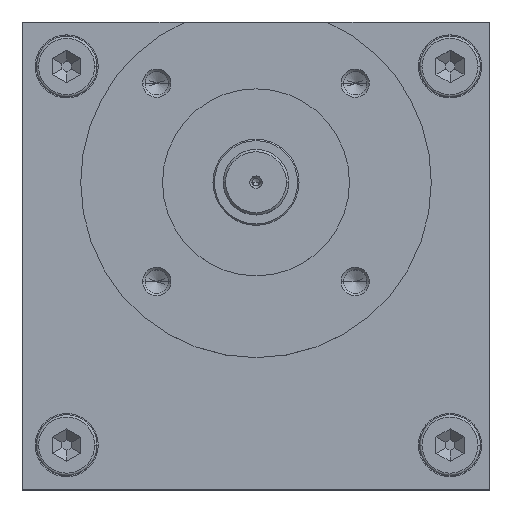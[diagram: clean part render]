
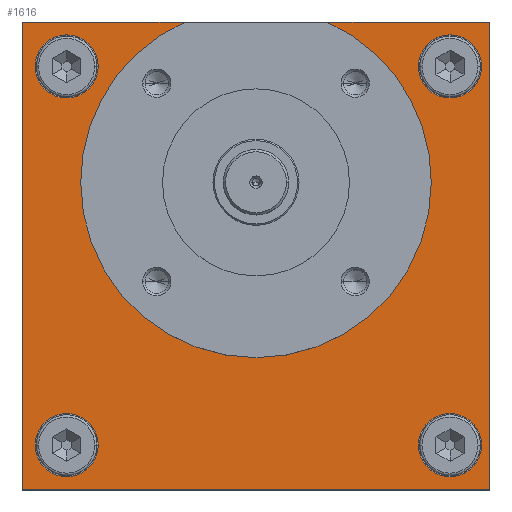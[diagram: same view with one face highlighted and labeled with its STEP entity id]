
A CAD part, top view. The second image highlights one B-rep face of the part: STEP entity #1616.
In plain terms, the highlighted planar face has unit normal (0, 0, 1).
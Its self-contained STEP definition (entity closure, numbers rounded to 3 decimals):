
#350 = ORIENTED_EDGE ( 'NONE', *, *, #1575, .F. ) ;
#359 = ORIENTED_EDGE ( 'NONE', *, *, #417, .T. ) ;
#409 = EDGE_CURVE ( 'NONE', #1635, #416, #2446, .T. ) ;
#415 = ORIENTED_EDGE ( 'NONE', *, *, #1550, .F. ) ;
#416 = VERTEX_POINT ( 'NONE', #2481 ) ;
#417 = EDGE_CURVE ( 'NONE', #416, #1523, #2480, .T. ) ;
#1285 = ORIENTED_EDGE ( 'NONE', *, *, #1660, .T. ) ;
#1397 = VERTEX_POINT ( 'NONE', #4576 ) ;
#1404 = VERTEX_POINT ( 'NONE', #4554 ) ;
#1406 = EDGE_CURVE ( 'NONE', #1397, #1404, #4610, .T. ) ;
#1416 = VERTEX_POINT ( 'NONE', #4619 ) ;
#1441 = EDGE_CURVE ( 'NONE', #1416, #1446, #4700, .T. ) ;
#1446 = VERTEX_POINT ( 'NONE', #4721 ) ;
#1494 = VERTEX_POINT ( 'NONE', #4833 ) ;
#1495 = EDGE_CURVE ( 'NONE', #1494, #1502, #4838, .T. ) ;
#1502 = VERTEX_POINT ( 'NONE', #4877 ) ;
#1514 = VERTEX_POINT ( 'NONE', #4857 ) ;
#1515 = VERTEX_POINT ( 'NONE', #4856 ) ;
#1517 = EDGE_CURVE ( 'NONE', #1514, #1515, #4879, .T. ) ;
#1523 = VERTEX_POINT ( 'NONE', #4909 ) ;
#1524 = VERTEX_POINT ( 'NONE', #4898 ) ;
#1550 = EDGE_CURVE ( 'NONE', #1524, #1523, #4970, .T. ) ;
#1575 = EDGE_CURVE ( 'NONE', #1582, #1524, #5004, .T. ) ;
#1582 = VERTEX_POINT ( 'NONE', #4976 ) ;
#1598 = EDGE_LOOP ( 'NONE', ( #1599, #1665, #1673, #1285, #1662, #359, #415, #350 ) ) ;
#1599 = ORIENTED_EDGE ( 'NONE', *, *, #1667, .F. ) ;
#1600 = ORIENTED_EDGE ( 'NONE', *, *, #1517, .F. ) ;
#1611 = EDGE_LOOP ( 'NONE', ( #1617, #1671 ) ) ;
#1616 = ADVANCED_FACE ( 'NONE', ( #5052, #5056, #5055, #5054, #5048 ), #5011, .F. ) ;
#1617 = ORIENTED_EDGE ( 'NONE', *, *, #1661, .F. ) ;
#1624 = EDGE_CURVE ( 'NONE', #1446, #1416, #5101, .T. ) ;
#1626 = EDGE_LOOP ( 'NONE', ( #1630, #1628 ) ) ;
#1628 = ORIENTED_EDGE ( 'NONE', *, *, #1441, .F. ) ;
#1630 = ORIENTED_EDGE ( 'NONE', *, *, #1624, .F. ) ;
#1635 = VERTEX_POINT ( 'NONE', #5098 ) ;
#1660 = EDGE_CURVE ( 'NONE', #1663, #1635, #5157, .T. ) ;
#1661 = EDGE_CURVE ( 'NONE', #1502, #1494, #5155, .T. ) ;
#1662 = ORIENTED_EDGE ( 'NONE', *, *, #409, .T. ) ;
#1663 = VERTEX_POINT ( 'NONE', #5147 ) ;
#1664 = VERTEX_POINT ( 'NONE', #5194 ) ;
#1665 = ORIENTED_EDGE ( 'NONE', *, *, #1669, .T. ) ;
#1666 = EDGE_LOOP ( 'NONE', ( #1676, #1678 ) ) ;
#1667 = EDGE_CURVE ( 'NONE', #1675, #1582, #5193, .T. ) ;
#1668 = EDGE_CURVE ( 'NONE', #1664, #1663, #5145, .T. ) ;
#1669 = EDGE_CURVE ( 'NONE', #1675, #1664, #5179, .T. ) ;
#1670 = ORIENTED_EDGE ( 'NONE', *, *, #1674, .F. ) ;
#1671 = ORIENTED_EDGE ( 'NONE', *, *, #1495, .F. ) ;
#1672 = EDGE_LOOP ( 'NONE', ( #1670, #1600 ) ) ;
#1673 = ORIENTED_EDGE ( 'NONE', *, *, #1668, .T. ) ;
#1674 = EDGE_CURVE ( 'NONE', #1515, #1514, #5180, .T. ) ;
#1675 = VERTEX_POINT ( 'NONE', #5184 ) ;
#1676 = ORIENTED_EDGE ( 'NONE', *, *, #1677, .F. ) ;
#1677 = EDGE_CURVE ( 'NONE', #1404, #1397, #5169, .T. ) ;
#1678 = ORIENTED_EDGE ( 'NONE', *, *, #1406, .F. ) ;
#2443 = DIRECTION ( 'NONE',  ( 0., 1., 0. ) ) ;
#2444 = VECTOR ( 'NONE', #2443, 1000. ) ;
#2445 = CARTESIAN_POINT ( 'NONE',  ( 50., -50., 0. ) ) ;
#2446 = LINE ( 'NONE', #2445, #2444 ) ;
#2473 = DIRECTION ( 'NONE',  ( -1., 0., 0. ) ) ;
#2474 = VECTOR ( 'NONE', #2473, 1000. ) ;
#2479 = CARTESIAN_POINT ( 'NONE',  ( -50., 50., 0. ) ) ;
#2480 = LINE ( 'NONE', #2479, #2474 ) ;
#2481 = CARTESIAN_POINT ( 'NONE',  ( 50., 50., 0. ) ) ;
#4554 = CARTESIAN_POINT ( 'NONE',  ( -33.75, -40.5, 0. ) ) ;
#4576 = CARTESIAN_POINT ( 'NONE',  ( -47.25, -40.5, 0. ) ) ;
#4606 = DIRECTION ( 'NONE',  ( 1., 0., 0. ) ) ;
#4607 = DIRECTION ( 'NONE',  ( 0., 0., 1. ) ) ;
#4608 = AXIS2_PLACEMENT_3D ( 'NONE', #4623, #4607, #4606 ) ;
#4610 = CIRCLE ( 'NONE', #4608, 6.75 ) ;
#4619 = CARTESIAN_POINT ( 'NONE',  ( 34.75, 40.5, 0. ) ) ;
#4623 = CARTESIAN_POINT ( 'NONE',  ( -40.5, -40.5, 0. ) ) ;
#4700 = CIRCLE ( 'NONE', #4752, 6.75 ) ;
#4721 = CARTESIAN_POINT ( 'NONE',  ( 48.25, 40.5, 0. ) ) ;
#4749 = DIRECTION ( 'NONE',  ( 1., 0., 0. ) ) ;
#4750 = DIRECTION ( 'NONE',  ( 0., 0., 1. ) ) ;
#4751 = CARTESIAN_POINT ( 'NONE',  ( 41.5, 40.5, 0. ) ) ;
#4752 = AXIS2_PLACEMENT_3D ( 'NONE', #4751, #4750, #4749 ) ;
#4820 = DIRECTION ( 'NONE',  ( 1., 0., 0. ) ) ;
#4821 = DIRECTION ( 'NONE',  ( 0., 0., 1. ) ) ;
#4822 = CARTESIAN_POINT ( 'NONE',  ( -40.5, 40.5, 0. ) ) ;
#4823 = AXIS2_PLACEMENT_3D ( 'NONE', #4822, #4821, #4820 ) ;
#4833 = CARTESIAN_POINT ( 'NONE',  ( -47.25, 40.5, 0. ) ) ;
#4838 = CIRCLE ( 'NONE', #4823, 6.75 ) ;
#4846 = AXIS2_PLACEMENT_3D ( 'NONE', #4865, #4913, #4912 ) ;
#4856 = CARTESIAN_POINT ( 'NONE',  ( 48.25, -40.5, 0. ) ) ;
#4857 = CARTESIAN_POINT ( 'NONE',  ( 34.75, -40.5, 0. ) ) ;
#4865 = CARTESIAN_POINT ( 'NONE',  ( 41.5, -40.5, 0. ) ) ;
#4877 = CARTESIAN_POINT ( 'NONE',  ( -33.75, 40.5, 0. ) ) ;
#4879 = CIRCLE ( 'NONE', #4846, 6.75 ) ;
#4898 = CARTESIAN_POINT ( 'NONE',  ( 37.5, 15.7, 0. ) ) ;
#4909 = CARTESIAN_POINT ( 'NONE',  ( 15.158, 50., 0. ) ) ;
#4912 = DIRECTION ( 'NONE',  ( 1., 0., 0. ) ) ;
#4913 = DIRECTION ( 'NONE',  ( 0., 0., 1. ) ) ;
#4965 = DIRECTION ( 'NONE',  ( 1., 0., 0. ) ) ;
#4966 = DIRECTION ( 'NONE',  ( 0., 0., 1. ) ) ;
#4967 = CARTESIAN_POINT ( 'NONE',  ( 0., 15.7, 0. ) ) ;
#4968 = AXIS2_PLACEMENT_3D ( 'NONE', #4967, #4966, #4965 ) ;
#4970 = CIRCLE ( 'NONE', #4968, 37.5 ) ;
#4976 = CARTESIAN_POINT ( 'NONE',  ( -37.5, 15.7, 0. ) ) ;
#4984 = DIRECTION ( 'NONE',  ( 1., 0., 0. ) ) ;
#4985 = DIRECTION ( 'NONE',  ( 0., 0., 1. ) ) ;
#4986 = CARTESIAN_POINT ( 'NONE',  ( 0., 15.7, 0. ) ) ;
#4987 = AXIS2_PLACEMENT_3D ( 'NONE', #4986, #4985, #4984 ) ;
#5004 = CIRCLE ( 'NONE', #4987, 37.5 ) ;
#5011 = PLANE ( 'NONE',  #5051 ) ;
#5044 = DIRECTION ( 'NONE',  ( -1., 0., 0. ) ) ;
#5045 = DIRECTION ( 'NONE',  ( 0., 0., -1. ) ) ;
#5048 = FACE_OUTER_BOUND ( 'NONE', #1598, .T. ) ;
#5051 = AXIS2_PLACEMENT_3D ( 'NONE', #5060, #5045, #5044 ) ;
#5052 = FACE_BOUND ( 'NONE', #1626, .T. ) ;
#5054 = FACE_BOUND ( 'NONE', #1666, .T. ) ;
#5055 = FACE_BOUND ( 'NONE', #1672, .T. ) ;
#5056 = FACE_BOUND ( 'NONE', #1611, .T. ) ;
#5060 = CARTESIAN_POINT ( 'NONE',  ( 50., 50., 0. ) ) ;
#5085 = DIRECTION ( 'NONE',  ( 1., 0., 0. ) ) ;
#5086 = DIRECTION ( 'NONE',  ( 0., 0., 1. ) ) ;
#5087 = CARTESIAN_POINT ( 'NONE',  ( 41.5, 40.5, 0. ) ) ;
#5098 = CARTESIAN_POINT ( 'NONE',  ( 50., -50., 0. ) ) ;
#5101 = CIRCLE ( 'NONE', #5102, 6.75 ) ;
#5102 = AXIS2_PLACEMENT_3D ( 'NONE', #5087, #5086, #5085 ) ;
#5137 = DIRECTION ( 'NONE',  ( 1., 0., 0. ) ) ;
#5138 = VECTOR ( 'NONE', #5137, 1000. ) ;
#5139 = CARTESIAN_POINT ( 'NONE',  ( -40.5, 40.5, 0. ) ) ;
#5140 = CARTESIAN_POINT ( 'NONE',  ( -50., -50., 0. ) ) ;
#5144 = CARTESIAN_POINT ( 'NONE',  ( -50., -50., 0. ) ) ;
#5145 = LINE ( 'NONE', #5144, #5182 ) ;
#5146 = DIRECTION ( 'NONE',  ( 0., 0., 1. ) ) ;
#5147 = CARTESIAN_POINT ( 'NONE',  ( -50., -50., 0. ) ) ;
#5153 = AXIS2_PLACEMENT_3D ( 'NONE', #5139, #5146, #5192 ) ;
#5155 = CIRCLE ( 'NONE', #5153, 6.75 ) ;
#5157 = LINE ( 'NONE', #5140, #5138 ) ;
#5165 = DIRECTION ( 'NONE',  ( 1., 0., 0. ) ) ;
#5166 = DIRECTION ( 'NONE',  ( 0., 0., 1. ) ) ;
#5167 = CARTESIAN_POINT ( 'NONE',  ( -40.5, -40.5, 0. ) ) ;
#5168 = AXIS2_PLACEMENT_3D ( 'NONE', #5167, #5166, #5165 ) ;
#5169 = CIRCLE ( 'NONE', #5168, 6.75 ) ;
#5174 = AXIS2_PLACEMENT_3D ( 'NONE', #5189, #5178, #5190 ) ;
#5175 = DIRECTION ( 'NONE',  ( -1., 0., 0. ) ) ;
#5176 = VECTOR ( 'NONE', #5175, 1000. ) ;
#5177 = CARTESIAN_POINT ( 'NONE',  ( -50., 50., 0. ) ) ;
#5178 = DIRECTION ( 'NONE',  ( 0., 0., 1. ) ) ;
#5179 = LINE ( 'NONE', #5177, #5176 ) ;
#5180 = CIRCLE ( 'NONE', #5174, 6.75 ) ;
#5181 = DIRECTION ( 'NONE',  ( 0., -1., 0. ) ) ;
#5182 = VECTOR ( 'NONE', #5181, 1000. ) ;
#5184 = CARTESIAN_POINT ( 'NONE',  ( -15.158, 50., 0. ) ) ;
#5185 = DIRECTION ( 'NONE',  ( 1., 0., 0. ) ) ;
#5186 = DIRECTION ( 'NONE',  ( 0., 0., 1. ) ) ;
#5187 = CARTESIAN_POINT ( 'NONE',  ( 0., 15.7, 0. ) ) ;
#5188 = AXIS2_PLACEMENT_3D ( 'NONE', #5187, #5186, #5185 ) ;
#5189 = CARTESIAN_POINT ( 'NONE',  ( 41.5, -40.5, 0. ) ) ;
#5190 = DIRECTION ( 'NONE',  ( 1., 0., 0. ) ) ;
#5192 = DIRECTION ( 'NONE',  ( 1., 0., 0. ) ) ;
#5193 = CIRCLE ( 'NONE', #5188, 37.5 ) ;
#5194 = CARTESIAN_POINT ( 'NONE',  ( -50., 50., 0. ) ) ;
